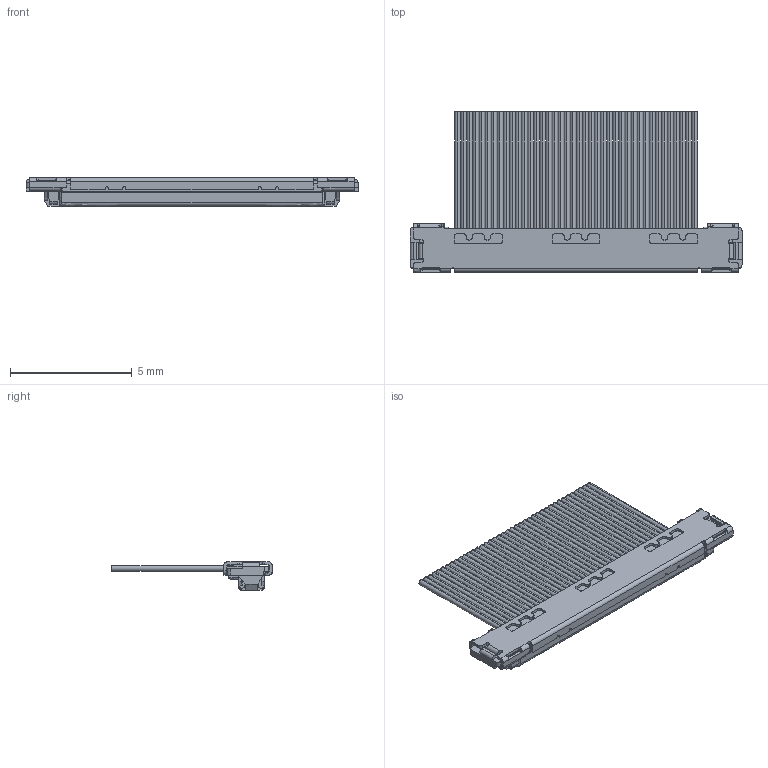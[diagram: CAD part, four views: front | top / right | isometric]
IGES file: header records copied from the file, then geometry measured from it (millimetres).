
Start section: Elysium IGES Interface
Global section: file name: C:\Users\1088\Desktop\P3C397_XSLS20-40\P3C397_XSLS20-40.igs; native system: CoCreate Modeling 17.0B  09-Oct-2010; preprocessor: CoCreate IGES_3D V2.2; author: Unknown; organization: Unknown; date: 20171026.155803; units: millimetre
Bounding box: 13.65 x 6.59 x 1.17 mm (x, y, z)
Volume: 19.2 mm3; surface area: 421.9 mm2
Topology: 1 solids, 1 shells, 790 faces, 2086 edges, 1375 vertices
Faces by surface type: bspline 790
